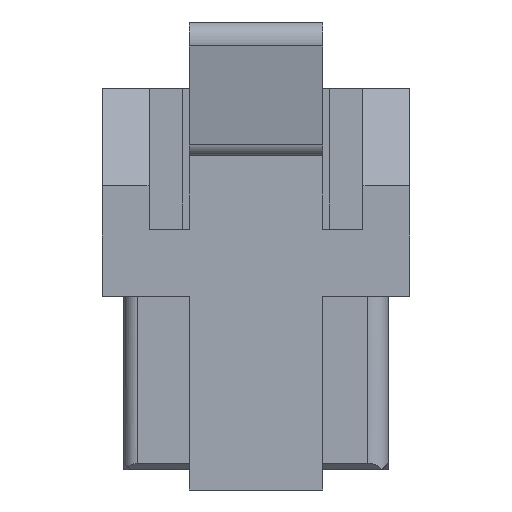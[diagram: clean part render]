
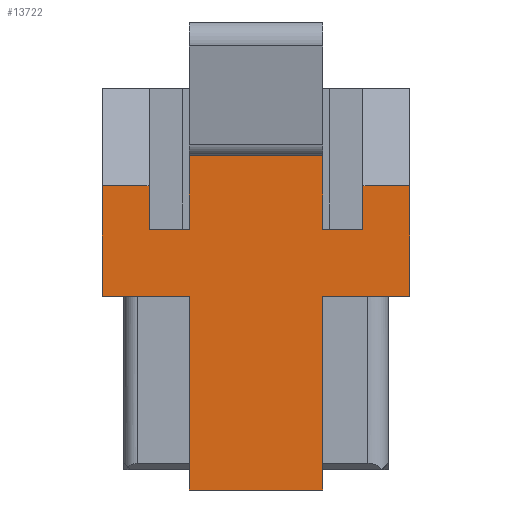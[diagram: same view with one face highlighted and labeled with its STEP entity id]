
A CAD part, left-side view. The second image highlights one B-rep face of the part: STEP entity #13722.
In plain terms, the highlighted planar face has unit normal (-1, 0, 0).
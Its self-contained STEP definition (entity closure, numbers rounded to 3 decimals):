
#1=DIRECTION('',(0.,0.,1.));
#2=VECTOR('',#1,1.648);
#3=CARTESIAN_POINT('',(-12.6,-2.3,-0.25));
#4=LINE('',#3,#2);
#189=DIRECTION('',(0.,-1.,0.));
#190=VECTOR('',#189,2.);
#191=CARTESIAN_POINT('',(-12.6,1.,1.85));
#192=LINE('',#191,#190);
#247=DIRECTION('',(0.,0.,1.));
#248=VECTOR('',#247,2.9);
#249=CARTESIAN_POINT('',(-12.6,-1.,-3.15));
#250=LINE('',#249,#248);
#259=DIRECTION('',(0.,0.,1.));
#260=VECTOR('',#259,1.1);
#261=CARTESIAN_POINT('',(-12.6,-1.,0.75));
#262=LINE('',#261,#260);
#2912=DIRECTION('',(0.,0.,1.));
#2913=VECTOR('',#2912,1.648);
#2914=CARTESIAN_POINT('',(-12.6,2.3,-0.25));
#2915=LINE('',#2914,#2913);
#3060=DIRECTION('',(0.,-1.,0.));
#3061=VECTOR('',#3060,1.3);
#3062=CARTESIAN_POINT('',(-12.6,2.3,-0.25));
#3063=LINE('',#3062,#3061);
#3126=DIRECTION('',(0.,0.,1.));
#3127=VECTOR('',#3126,2.9);
#3128=CARTESIAN_POINT('',(-12.6,1.,-3.15));
#3129=LINE('',#3128,#3127);
#3156=DIRECTION('',(0.,0.,1.));
#3157=VECTOR('',#3156,1.1);
#3158=CARTESIAN_POINT('',(-12.6,1.,0.75));
#3159=LINE('',#3158,#3157);
#3324=DIRECTION('',(0.,1.,0.));
#3325=VECTOR('',#3324,2.);
#3326=CARTESIAN_POINT('',(-12.6,-1.,-3.15));
#3327=LINE('',#3326,#3325);
#3456=DIRECTION('',(0.,-1.,0.));
#3457=VECTOR('',#3456,0.6);
#3458=CARTESIAN_POINT('',(-12.6,1.6,0.75));
#3459=LINE('',#3458,#3457);
#3468=DIRECTION('',(0.,0.,1.));
#3469=VECTOR('',#3468,0.648);
#3470=CARTESIAN_POINT('',(-12.6,1.6,0.75));
#3471=LINE('',#3470,#3469);
#3492=DIRECTION('',(0.,1.,0.));
#3493=VECTOR('',#3492,0.7);
#3494=CARTESIAN_POINT('',(-12.6,1.6,1.398));
#3495=LINE('',#3494,#3493);
#9985=DIRECTION('',(0.,-1.,0.));
#9986=VECTOR('',#9985,1.3);
#9987=CARTESIAN_POINT('',(-12.6,-1.,-0.25));
#9988=LINE('',#9987,#9986);
#10005=DIRECTION('',(0.,0.,1.));
#10006=VECTOR('',#10005,0.648);
#10007=CARTESIAN_POINT('',(-12.6,-1.6,0.75));
#10008=LINE('',#10007,#10006);
#10025=DIRECTION('',(0.,-1.,0.));
#10026=VECTOR('',#10025,0.6);
#10027=CARTESIAN_POINT('',(-12.6,-1.,0.75));
#10028=LINE('',#10027,#10026);
#10041=DIRECTION('',(0.,-1.,0.));
#10042=VECTOR('',#10041,0.7);
#10043=CARTESIAN_POINT('',(-12.6,-1.6,1.398));
#10044=LINE('',#10043,#10042);
#12584=CARTESIAN_POINT('',(-12.6,1.,1.85));
#12585=CARTESIAN_POINT('',(-12.6,-1.,1.85));
#12586=VERTEX_POINT('',#12584);
#12587=VERTEX_POINT('',#12585);
#12588=CARTESIAN_POINT('',(-12.6,-2.3,-0.25));
#12589=CARTESIAN_POINT('',(-12.6,-2.3,1.398));
#12590=VERTEX_POINT('',#12588);
#12591=VERTEX_POINT('',#12589);
#12592=CARTESIAN_POINT('',(-12.6,2.3,-0.25));
#12593=CARTESIAN_POINT('',(-12.6,2.3,1.398));
#12594=VERTEX_POINT('',#12592);
#12595=VERTEX_POINT('',#12593);
#12596=CARTESIAN_POINT('',(-12.6,1.,-0.25));
#12597=VERTEX_POINT('',#12596);
#12598=CARTESIAN_POINT('',(-12.6,1.,-3.15));
#12599=VERTEX_POINT('',#12598);
#12600=CARTESIAN_POINT('',(-12.6,1.,0.75));
#12601=VERTEX_POINT('',#12600);
#12602=CARTESIAN_POINT('',(-12.6,-1.,-3.15));
#12603=CARTESIAN_POINT('',(-12.6,-1.,-0.25));
#12604=VERTEX_POINT('',#12602);
#12605=VERTEX_POINT('',#12603);
#12606=CARTESIAN_POINT('',(-12.6,-1.,0.75));
#12607=VERTEX_POINT('',#12606);
#12608=CARTESIAN_POINT('',(-12.6,-1.6,0.75));
#12609=CARTESIAN_POINT('',(-12.6,-1.6,1.398));
#12610=VERTEX_POINT('',#12608);
#12611=VERTEX_POINT('',#12609);
#12612=CARTESIAN_POINT('',(-12.6,1.6,0.75));
#12613=CARTESIAN_POINT('',(-12.6,1.6,1.398));
#12614=VERTEX_POINT('',#12612);
#12615=VERTEX_POINT('',#12613);
#13684=CARTESIAN_POINT('',(-12.6,0.,0.));
#13685=DIRECTION('',(1.,0.,0.));
#13686=DIRECTION('',(0.,1.,0.));
#13687=AXIS2_PLACEMENT_3D('',#13684,#13685,#13686);
#13688=PLANE('',#13687);
#13690=ORIENTED_EDGE('',*,*,#13689,.T.);
#13692=ORIENTED_EDGE('',*,*,#13691,.F.);
#13694=ORIENTED_EDGE('',*,*,#13693,.T.);
#13696=ORIENTED_EDGE('',*,*,#13695,.T.);
#13698=ORIENTED_EDGE('',*,*,#13697,.T.);
#13699=ORIENTED_EDGE('',*,*,#13581,.F.);
#13701=ORIENTED_EDGE('',*,*,#13700,.F.);
#13703=ORIENTED_EDGE('',*,*,#13702,.F.);
#13705=ORIENTED_EDGE('',*,*,#13704,.T.);
#13707=ORIENTED_EDGE('',*,*,#13706,.T.);
#13709=ORIENTED_EDGE('',*,*,#13708,.F.);
#13711=ORIENTED_EDGE('',*,*,#13710,.T.);
#13713=ORIENTED_EDGE('',*,*,#13712,.F.);
#13715=ORIENTED_EDGE('',*,*,#13714,.F.);
#13717=ORIENTED_EDGE('',*,*,#13716,.T.);
#13719=ORIENTED_EDGE('',*,*,#13718,.T.);
#13720=EDGE_LOOP('',(#13690,#13692,#13694,#13696,#13698,#13699,#13701,#13703,
#13705,#13707,#13709,#13711,#13713,#13715,#13717,#13719));
#13721=FACE_OUTER_BOUND('',#13720,.F.);
#13722=ADVANCED_FACE('',(#13721),#13688,.F.);
#13581=EDGE_CURVE('',#12590,#12591,#4,.T.);
#13689=EDGE_CURVE('',#12586,#12587,#192,.T.);
#13691=EDGE_CURVE('',#12607,#12587,#262,.T.);
#13693=EDGE_CURVE('',#12607,#12610,#10028,.T.);
#13695=EDGE_CURVE('',#12610,#12611,#10008,.T.);
#13697=EDGE_CURVE('',#12611,#12591,#10044,.T.);
#13700=EDGE_CURVE('',#12605,#12590,#9988,.T.);
#13702=EDGE_CURVE('',#12604,#12605,#250,.T.);
#13704=EDGE_CURVE('',#12604,#12599,#3327,.T.);
#13706=EDGE_CURVE('',#12599,#12597,#3129,.T.);
#13708=EDGE_CURVE('',#12594,#12597,#3063,.T.);
#13710=EDGE_CURVE('',#12594,#12595,#2915,.T.);
#13712=EDGE_CURVE('',#12615,#12595,#3495,.T.);
#13714=EDGE_CURVE('',#12614,#12615,#3471,.T.);
#13716=EDGE_CURVE('',#12614,#12601,#3459,.T.);
#13718=EDGE_CURVE('',#12601,#12586,#3159,.T.);
